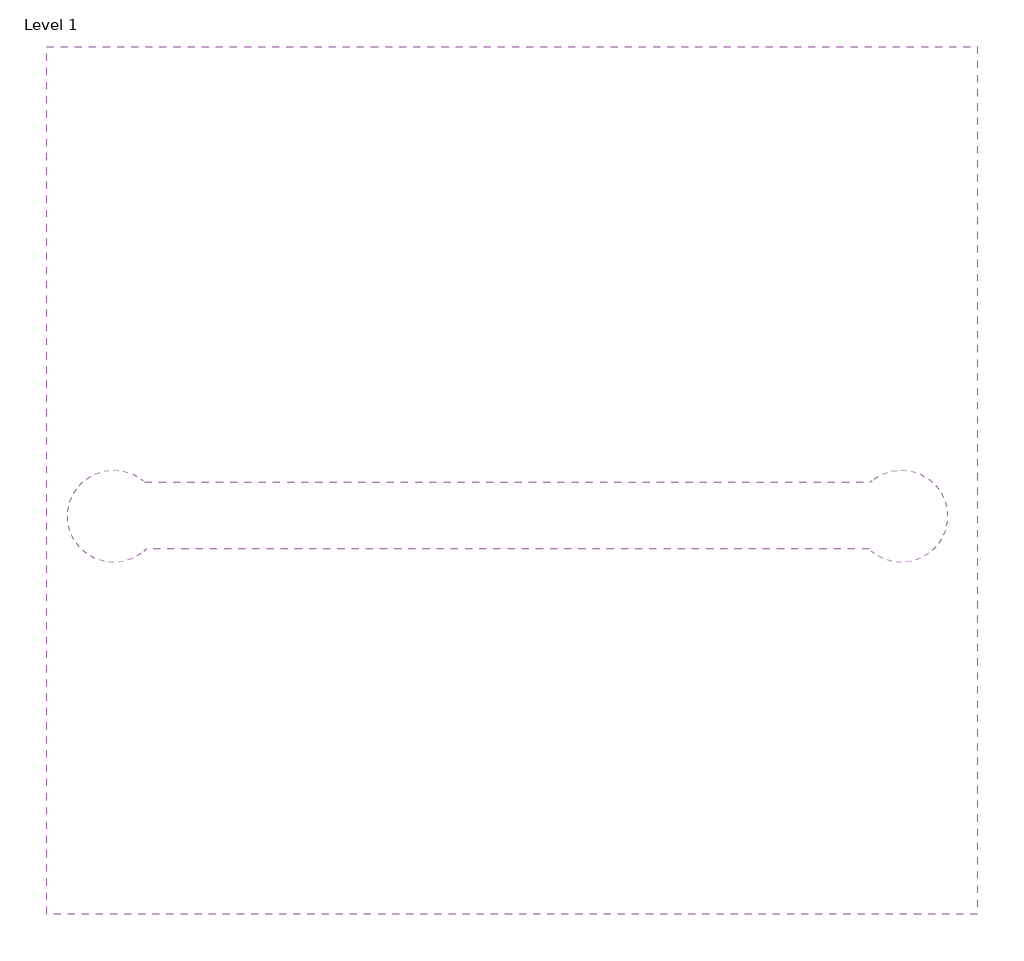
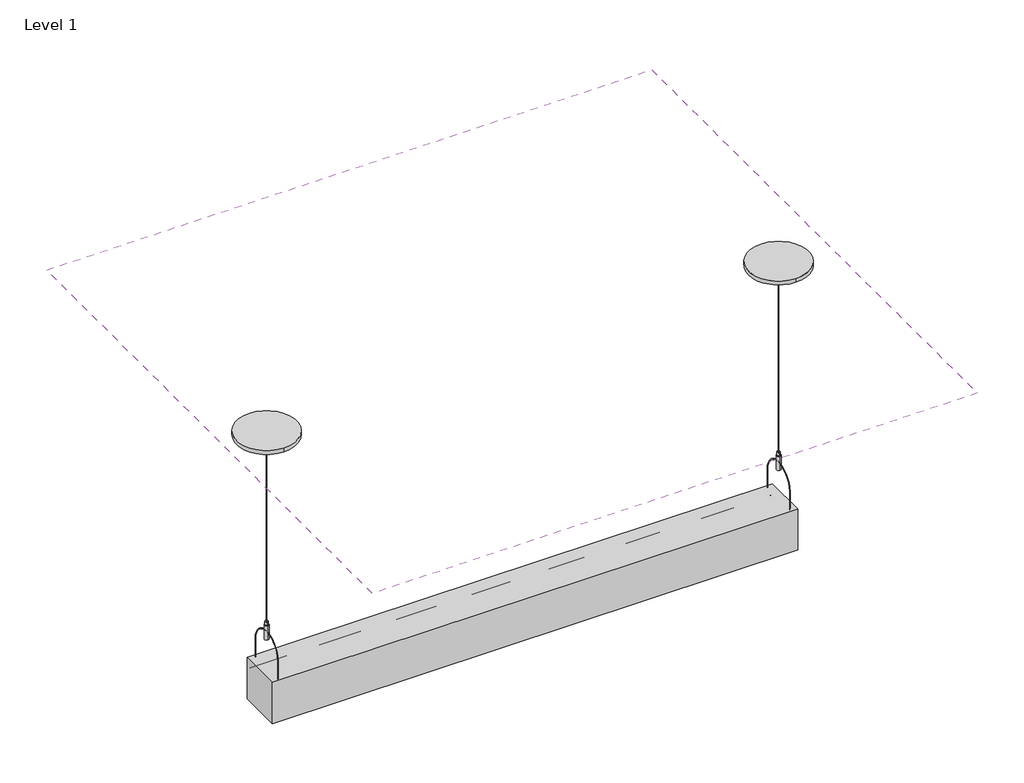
# One storey: 1 covering, 1 light fixture.
"""IFC4 building model written with IfcOpenShell, lengths in millimetres."""

from ifc_helpers import new_model, si_unit, frame, origin, place, context, project, spatial, polyline, outline, extrude, transform, mapped, element, save
from components import cube4_ind_pendant_with_lens_cube4_27_f301a707

model = new_model("IFC4")

# Units and contexts
model_context = context("Model", 3, world=origin())
ifc_project = project(units=[si_unit("LENGTHUNIT", "METRE", prefix="MILLI")], contexts=[model_context])

# Site, building, storey
site = spatial("IfcSite", under=ifc_project)
building = spatial("IfcBuilding", under=site)
storey = spatial("IfcBuildingStorey", under=building, Name="Level 1", Elevation=0.0)

# Covering
placement = place(None, origin())
element("IfcCovering", 1, ObjectType="Plain", at=placement, inside=storey, context=model_context, shape_type="SweptSolid", body=[
    extrude(outline(polyline([(-1289.1447554, 2975.8443287), (-1289.1447554, 1665.8443287), (-2694.1447554, 1665.8443287), (-2694.1447554, 2975.8443287), (-1289.1447554, 2975.8443287)])), frame((0.0, 0.0, 2600.0), z_axis=(0.0, 0.0, 1.0), x_axis=(1.0, 0.0, 0.0)), (0.0, 0.0, 1.0), 57.0),
])

# Light fixture
cube4_ind_pendant_with_lens_cube4_27_shape = cube4_ind_pendant_with_lens_cube4_27_f301a707(model_context)
element("IfcLightFixture", 2, ObjectType="CUBE4-IND (PENDANT) with LENS : Cube4_27", at=placement, inside=storey, context=model_context, shape_type="MappedRepresentation", body=[
    mapped(cube4_ind_pendant_with_lens_cube4_27_shape, transform((-1638.5465519, 2266.7253459, 161.6), x_axis=(0.0, 1.0000000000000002, 0.0), y_axis=(-1.0000000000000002, 0.0, 0.0), z_axis=(0.0, 0.0, 1.0))),
])

save(model, "model.ifc")
